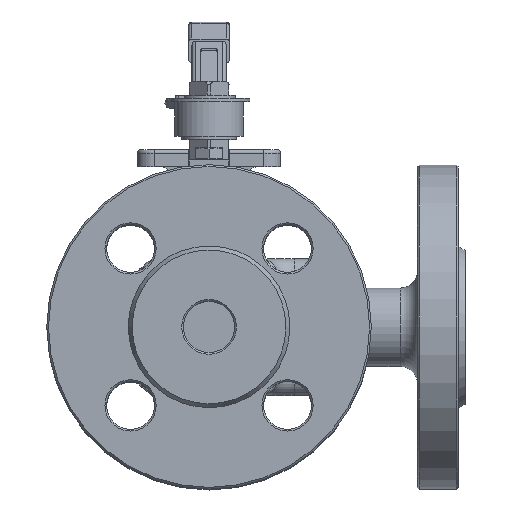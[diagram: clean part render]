
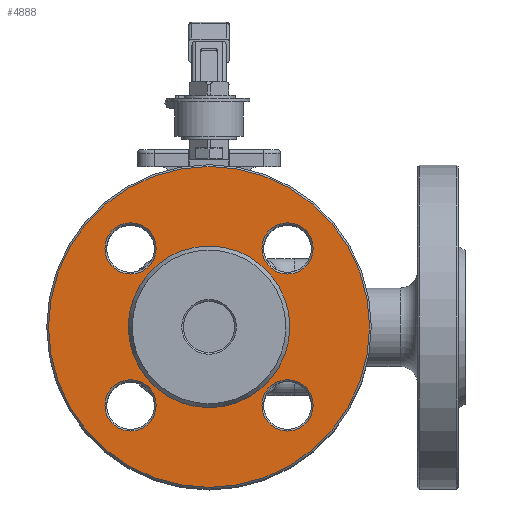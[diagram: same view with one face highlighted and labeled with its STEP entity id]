
A CAD part, top view. The second image highlights one B-rep face of the part: STEP entity #4888.
In plain terms, the highlighted planar face has unit normal (0, 0, 1).
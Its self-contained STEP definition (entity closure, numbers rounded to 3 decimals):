
#4888=ADVANCED_FACE('',(#13658,#13660,#13662,#13664,#13666,#13668),#13670,.T.);
#13658=FACE_BOUND('',#13659,.T.);
#13659=EDGE_LOOP('',(#18508));
#13660=FACE_BOUND('',#13661,.T.);
#13661=EDGE_LOOP('',(#18509));
#13662=FACE_BOUND('',#13663,.T.);
#13663=EDGE_LOOP('',(#18510));
#13664=FACE_BOUND('',#13665,.T.);
#13665=EDGE_LOOP('',(#18511));
#13666=FACE_BOUND('',#13667,.T.);
#13667=EDGE_LOOP('',(#18512));
#13668=FACE_BOUND('',#13669,.T.);
#13669=EDGE_LOOP('',(#18513));
#13670=PLANE('',#13671);
#13671=AXIS2_PLACEMENT_3D('',#13672,#13673,#13674);
#13672=CARTESIAN_POINT('',(0.,0.,73.));
#13673=DIRECTION('',(0.,0.,1.));
#13674=DIRECTION('',(1.,0.,0.));
#18508=ORIENTED_EDGE('',*,*,#21070,.F.);
#18509=ORIENTED_EDGE('',*,*,#21039,.F.);
#18510=ORIENTED_EDGE('',*,*,#21037,.F.);
#18511=ORIENTED_EDGE('',*,*,#21071,.F.);
#18512=ORIENTED_EDGE('',*,*,#21038,.F.);
#18513=ORIENTED_EDGE('',*,*,#21036,.F.);
#21036=EDGE_CURVE('',#24423,#24423,#24424,.T.);
#21037=EDGE_CURVE('',#24425,#24425,#24426,.T.);
#21038=EDGE_CURVE('',#24427,#24427,#24428,.T.);
#21039=EDGE_CURVE('',#24429,#24429,#24430,.T.);
#21070=EDGE_CURVE('',#24487,#24487,#24488,.T.);
#21071=EDGE_CURVE('',#24489,#24489,#24490,.T.);
#24423=VERTEX_POINT('',#43380);
#24424=CIRCLE('',#43381,7.5);
#24425=VERTEX_POINT('',#43385);
#24426=CIRCLE('',#43386,7.5);
#24427=VERTEX_POINT('',#43390);
#24428=CIRCLE('',#43391,7.5);
#24429=VERTEX_POINT('',#43395);
#24430=CIRCLE('',#43396,7.5);
#24487=VERTEX_POINT('',#43888);
#24488=CIRCLE('',#43889,47.);
#24489=VERTEX_POINT('',#43893);
#24490=CIRCLE('',#43894,23.655);
#43380=CARTESIAN_POINT('',(-15.481,-22.981,73.));
#43381=AXIS2_PLACEMENT_3D('',#43382,#43383,#43384);
#43382=CARTESIAN_POINT('',(-22.981,-22.981,73.));
#43383=DIRECTION('',(0.,0.,1.));
#43384=DIRECTION('',(1.,0.,0.));
#43385=CARTESIAN_POINT('',(-15.481,22.981,73.));
#43386=AXIS2_PLACEMENT_3D('',#43387,#43388,#43389);
#43387=CARTESIAN_POINT('',(-22.981,22.981,73.));
#43388=DIRECTION('',(0.,0.,1.));
#43389=DIRECTION('',(1.,0.,0.));
#43390=CARTESIAN_POINT('',(30.481,22.981,73.));
#43391=AXIS2_PLACEMENT_3D('',#43392,#43393,#43394);
#43392=CARTESIAN_POINT('',(22.981,22.981,73.));
#43393=DIRECTION('',(0.,0.,1.));
#43394=DIRECTION('',(1.,0.,0.));
#43395=CARTESIAN_POINT('',(30.481,-22.981,73.));
#43396=AXIS2_PLACEMENT_3D('',#43397,#43398,#43399);
#43397=CARTESIAN_POINT('',(22.981,-22.981,73.));
#43398=DIRECTION('',(0.,0.,1.));
#43399=DIRECTION('',(1.,0.,0.));
#43888=CARTESIAN_POINT('',(47.,0.,73.));
#43889=AXIS2_PLACEMENT_3D('',#43890,#43891,#43892);
#43890=CARTESIAN_POINT('',(0.,0.,73.));
#43891=DIRECTION('',(0.,0.,-1.));
#43892=DIRECTION('',(1.,0.,0.));
#43893=CARTESIAN_POINT('',(23.655,0.,73.));
#43894=AXIS2_PLACEMENT_3D('',#43895,#43896,#43897);
#43895=CARTESIAN_POINT('',(0.,0.,73.));
#43896=DIRECTION('',(0.,0.,1.));
#43897=DIRECTION('',(1.,0.,0.));
